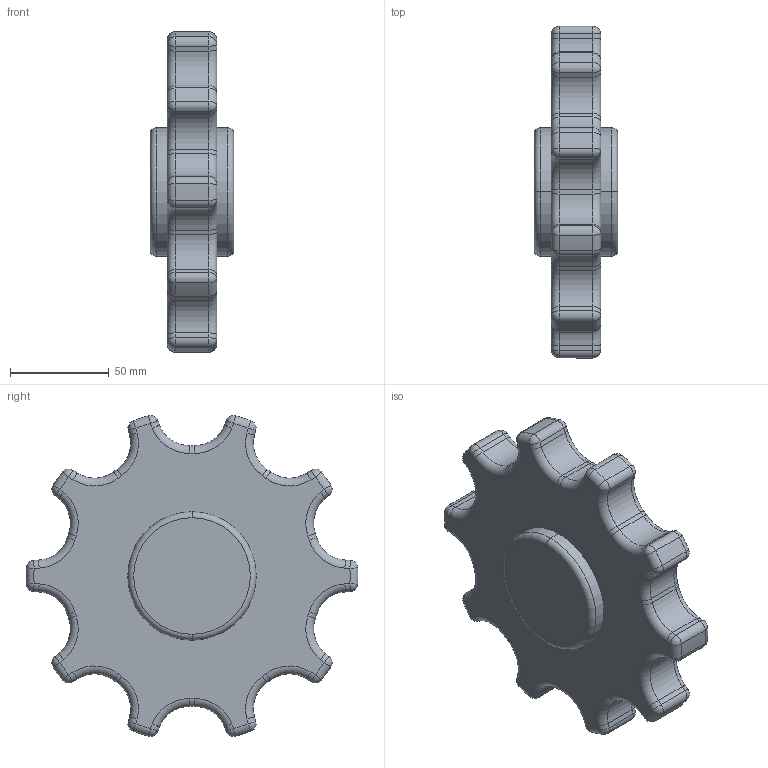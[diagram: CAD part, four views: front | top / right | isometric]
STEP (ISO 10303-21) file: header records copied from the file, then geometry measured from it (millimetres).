
FILE_DESCRIPTION((''),'2;1');
FILE_NAME('37333200Z10','2015-11-23T',('bhe'),(''),'CREO PARAMETRIC BY PTC INC, 2015290','CREO PARAMETRIC BY PTC INC, 2015290','');
FILE_SCHEMA(('CONFIG_CONTROL_DESIGN'));
Length unit declared in the file: millimetre
Products named in the file (1): 37333200Z10
Bounding box: 42.3 x 167.98 x 162.38 mm (x, y, z)
Volume: 479833.8 mm3; surface area: 51517.3 mm2
Topology: 1 solids, 1 shells, 252 faces, 540 edges, 292 vertices
Faces by surface type: cylinder 104, torus 84, sphere 40, plane 24
Entity records: 6806 total; most frequent: DIRECTION 1420, CARTESIAN_POINT 1084, ORIENTED_EDGE 1080, AXIS2_PLACEMENT_3D 628, EDGE_CURVE 540, CIRCLE 376, VERTEX_POINT 292, EDGE_LOOP 254
